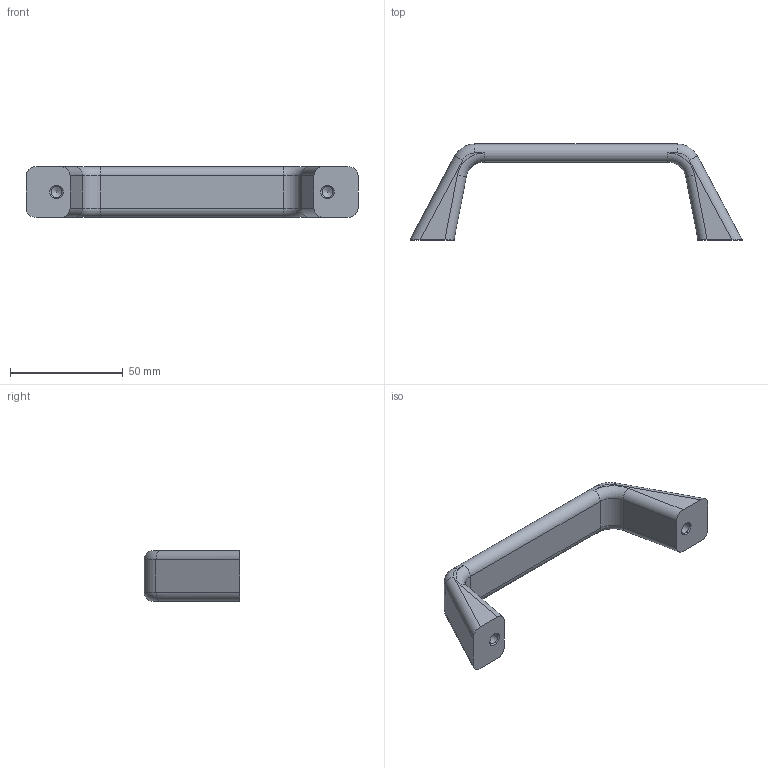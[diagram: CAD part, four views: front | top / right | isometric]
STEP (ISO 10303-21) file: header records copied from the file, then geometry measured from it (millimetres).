
FILE_DESCRIPTION( ( 'STEP AP203' ), '1' );
FILE_NAME( 'C:/Temp/Ganter_Step_05_03_2020/data/1_2/gn_728/gn_728_a/Cabinet U-handle GN 728-120-A-SR.stp', '2020-03-05T10:10:18', ( 'License CC BY-ND 4.0' ), ( 'CADENAS' ), ' ', 'PARTsolutions', ' ' );
FILE_SCHEMA( ( 'CONFIG_CONTROL_DESIGN' ) );
Length unit declared in the file: millimetre
Products named in the file (1): _Cabinet U-handle GN 728-120-A-SR
Bounding box: 147 x 42.5 x 22.5 mm (x, y, z)
Volume: 37449.4 mm3; surface area: 11664.9 mm2
Topology: 1 solids, 1 shells, 40 faces, 94 edges, 56 vertices
Faces by surface type: cylinder 16, plane 12, torus 8, cone 4
Full cylindrical faces by diameter (mm): 4.917 x2
Entity records: 1148 total; most frequent: DIRECTION 214, CARTESIAN_POINT 183, ORIENTED_EDGE 172, AXIS2_PLACEMENT_3D 87, EDGE_CURVE 86, VERTEX_POINT 56, EDGE_LOOP 46, FACE_OUTER_BOUND 42
